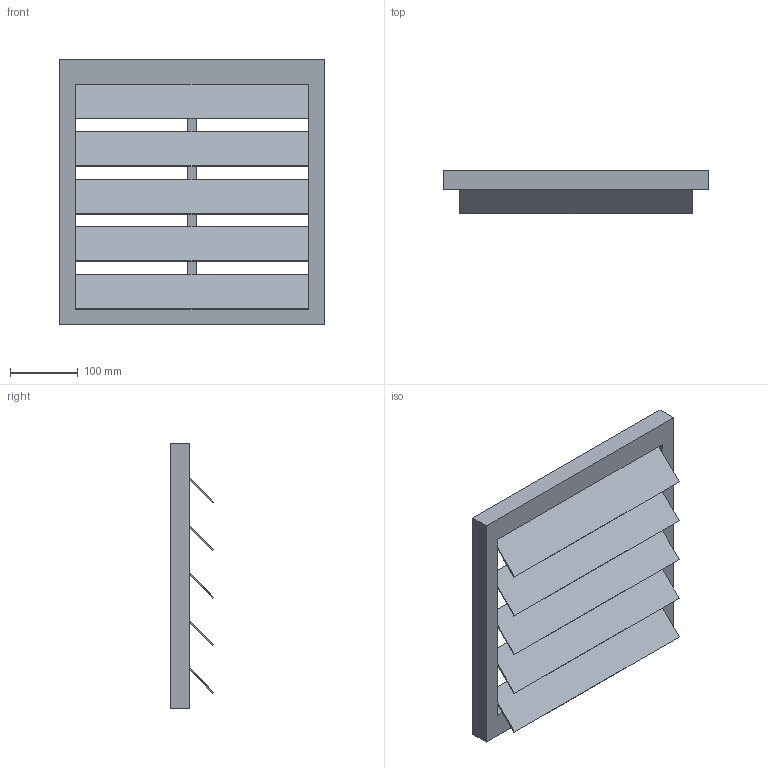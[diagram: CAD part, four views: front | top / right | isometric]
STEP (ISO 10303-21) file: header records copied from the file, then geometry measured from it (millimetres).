
FILE_DESCRIPTION(/* description */ (''),/* implementation_level */ '2;1');
FILE_NAME(/* name */ 'Z:\Output\VK_355-00761-001.stp',/* time_stamp */ '2017-09-29T10:20:21+02:00',/* author */ ('pareshmistry'),/* organization */ (''),/* preprocessor_version */ 'ST-DEVELOPER v16.5',/* originating_system */ 'Autodesk Inventor 2017',/* authorisation */ '');
FILE_SCHEMA (('AUTOMOTIVE_DESIGN { 1 0 10303 214 3 1 1 }'));
Length unit declared in the file: millimetre
Products named in the file (1): VK-1
Bounding box: 390 x 63.5 x 390 mm (x, y, z)
Volume: 1511323.3 mm3; surface area: 432599 mm2
Topology: 1 solids, 1 shells, 76 faces, 249 edges, 150 vertices
Faces by surface type: plane 68, cylinder 8
Full cylindrical faces by diameter (mm): 8 x4
Entity records: 2701 total; most frequent: ORIENTED_EDGE 494, CARTESIAN_POINT 468, DIRECTION 425, EDGE_CURVE 243, LINE 215, VECTOR 215, VERTEX_POINT 148, AXIS2_PLACEMENT_3D 105
